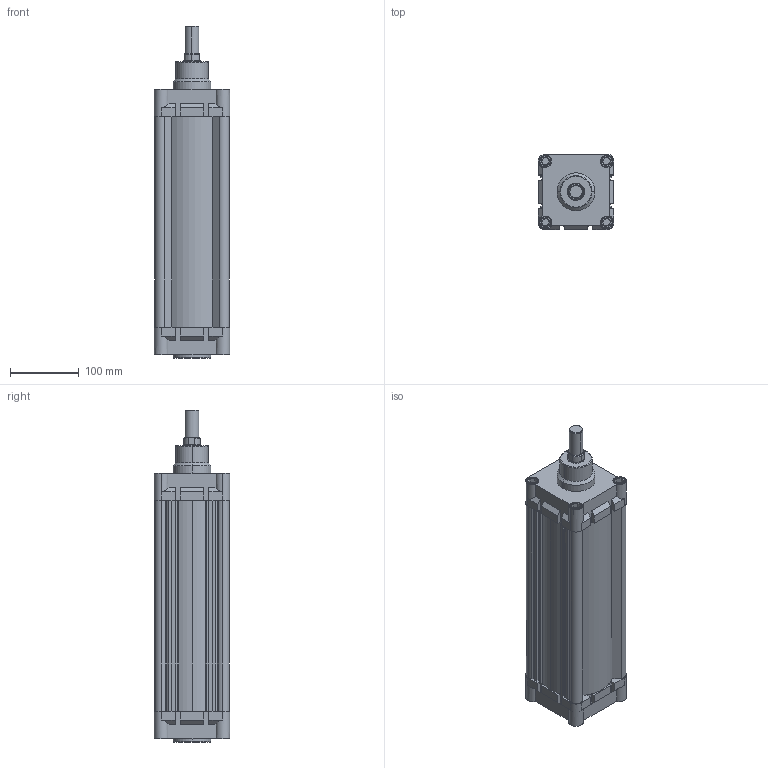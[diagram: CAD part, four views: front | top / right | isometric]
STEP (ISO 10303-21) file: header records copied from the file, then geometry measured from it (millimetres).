
FILE_DESCRIPTION (( 'STEP AP214' ), '1' );
FILE_NAME ('RIC100_250_MY_WEB.STEP', '2020-09-10T17:47:44', ( '' ), ( '' ), 'SwSTEP 2.0', 'SolidWorks 2018', '' );
FILE_SCHEMA (( 'AUTOMOTIVE_DESIGN' ));
Length unit declared in the file: millimetre
Products named in the file (6): 25_K_MIL_WEB; M12 KAPAK CÝVATASI; rýc100arkakapak; RIC_100_BORU_WEB; RIC100_250_MY_WEB; RIC_100_ON_KAPAK_WEB
Assembly tree (12 placements, depth 2):
  RIC100_250_MY_WEB
    RIC_100_ON_KAPAK_WEB
    RIC_100_BORU_WEB
    rýc100arkakapak
    M12 KAPAK CÝVATASI  x8
    25_K_MIL_WEB
Bounding box: 110 x 110 x 484 mm (x, y, z)
Volume: 1812424.6 mm3; surface area: 452904.5 mm2
Topology: 12 solids, 12 shells, 717 faces, 1793 edges, 1155 vertices
Faces by surface type: plane 362, cylinder 209, bspline 81, cone 59, torus 6
Entity records: 22464 total; most frequent: CARTESIAN_POINT 7800, ORIENTED_EDGE 2746, DIRECTION 2408, EDGE_CURVE 1373, VERTEX_POINT 903, LINE 826, VECTOR 826, AXIS2_PLACEMENT_3D 791
